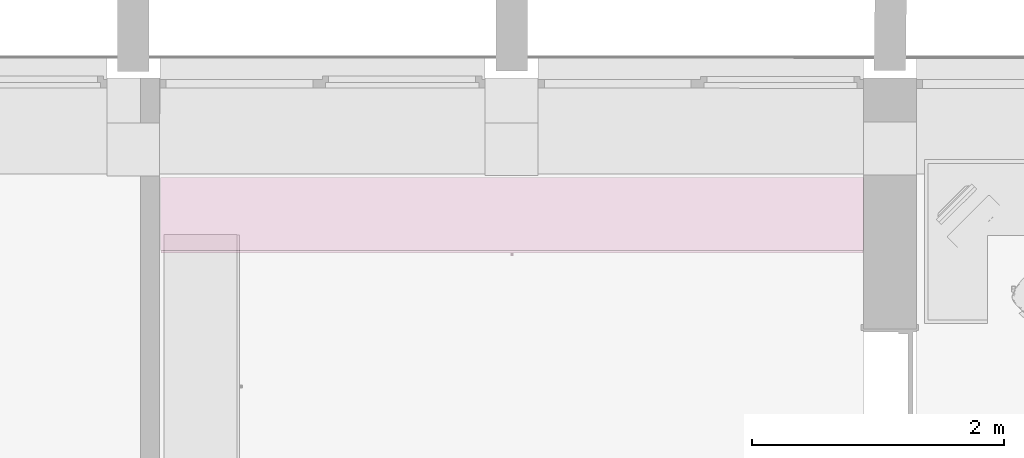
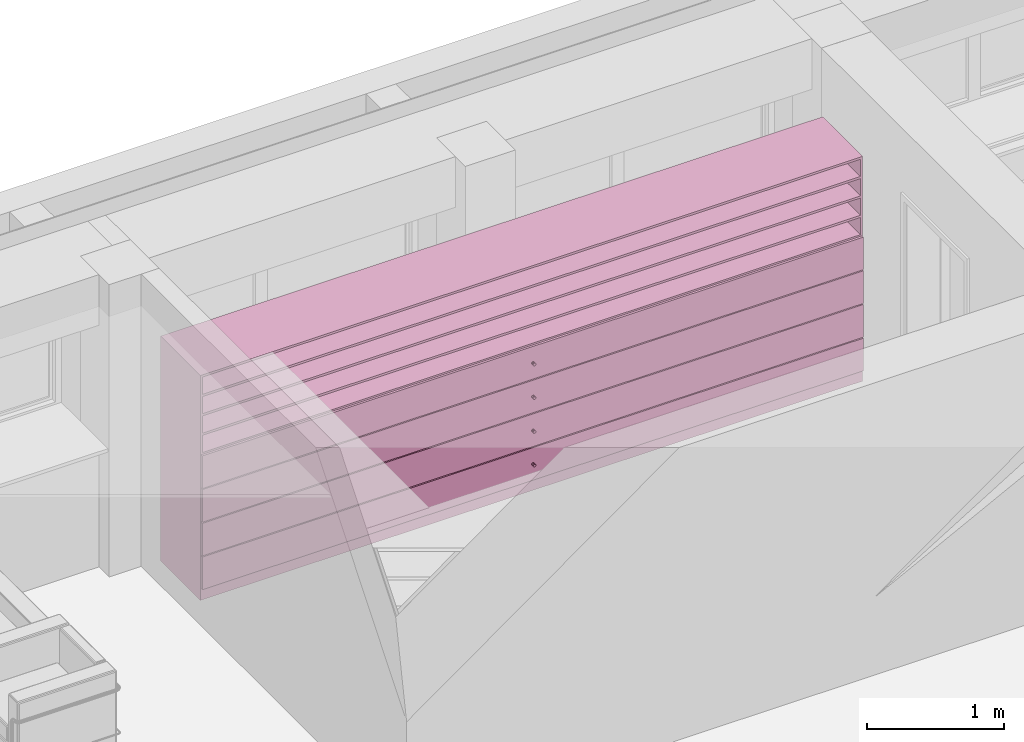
# One storey, part 102 of 127: 1 furnishing.
"""IFC2X3 building model written with IfcOpenShell, lengths in millimetres."""

from ifc_helpers import new_model, entity, si_unit, converted_unit, derived_unit, money_unit, direction, frame, origin_with_axes, place, context, subcontext, project, spatial, faceted_brep, type_object, element, save


model = new_model("IFC2X3")

# Units and contexts
model_context = context("Model", 3, precision=1e-05, world=origin_with_axes(), true_north=direction((0.0, 1.0)))
body_context = subcontext(model_context, "Body", "Model", "MODEL_VIEW")
ifc_project = project(units=[si_unit("LENGTHUNIT", "METRE", prefix="MILLI"), si_unit("AREAUNIT", "SQUARE_METRE"), si_unit("VOLUMEUNIT", "CUBIC_METRE"), converted_unit("PLANEANGLEUNIT", "DEGREE", entity("IfcPlaneAngleMeasure", 0.0174532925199), si_unit("PLANEANGLEUNIT", "RADIAN"), dimensions=[0, 0, 0, 0, 0, 0, 0]), si_unit("SOLIDANGLEUNIT", "STERADIAN"), money_unit("EUR"), converted_unit("TIMEUNIT", "Year", entity("IfcTimeMeasure", 31556926.0), si_unit("TIMEUNIT", "SECOND"), dimensions=[0, 0, 1, 0, 0, 0, 0]), si_unit("MASSUNIT", "GRAM", prefix="KILO"), si_unit("THERMODYNAMICTEMPERATUREUNIT", "DEGREE_CELSIUS"), si_unit("LUMINOUSINTENSITYUNIT", "LUMEN"), si_unit("ENERGYUNIT", "JOULE", prefix="MEGA"), derived_unit("THERMALCONDUCTANCEUNIT", [(si_unit("POWERUNIT", "WATT"), 1), (si_unit("LENGTHUNIT", "METRE"), -1), (si_unit("THERMODYNAMICTEMPERATUREUNIT", "KELVIN"), -1)]), derived_unit("SPECIFICHEATCAPACITYUNIT", [(si_unit("ENERGYUNIT", "JOULE"), 1), (si_unit("MASSUNIT", "GRAM", prefix="KILO"), -1), (si_unit("THERMODYNAMICTEMPERATUREUNIT", "KELVIN"), -1)]), derived_unit("MASSDENSITYUNIT", [(si_unit("MASSUNIT", "GRAM", prefix="KILO"), 1), (si_unit("VOLUMEUNIT", "CUBIC_METRE"), -1)])], contexts=[model_context])

# Site, building, storey
site_placement = place(None, origin_with_axes())
site = spatial("IfcSite", under=ifc_project, at=site_placement, Name="Site", CompositionType="ELEMENT")
building_placement = place(site_placement, origin_with_axes())
building = spatial("IfcBuilding", under=site, at=building_placement, Name="Building", CompositionType="ELEMENT")
storey_placement = place(building_placement, origin_with_axes())
storey = spatial("IfcBuildingStorey", under=building, at=storey_placement, Name="1 KORRUS", CompositionType="ELEMENT", Elevation=0.0)

# Furnishing
furnishing_element_type = type_object("IfcFurnishingElementType", Name="Model Element 50")
furnishing_placement = place(storey_placement, frame((30734.8414233, 45862.2827279, 0.0), z_axis=(0.0, 0.0, 1.0), x_axis=(1.0, 0.0, 0.0)))
element("IfcFurnishingElement", 1, at=furnishing_placement, inside=storey, type_object=furnishing_element_type, Name="FU - 013", context=body_context, shape_type="Brep", body=[
    faceted_brep([(-5573.89062701, 19.0, 0.0), (-5573.89062701, 599.999999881, 0.0), (0.0, 599.999999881, 0.0), (0.0, 19.0, 0.0), (-5573.89062701, 19.0, 100.0), (-5573.89062701, 599.999999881, 100.0), (0.0, 599.999999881, 100.0), (0.0, 19.0, 100.0)], [[[0, 1, 2, 3]], [[0, 4, 5, 1]], [[1, 5, 6, 2]], [[2, 6, 7, 3]], [[3, 7, 4, 0]], [[7, 6, 5, 4]]]),
    faceted_brep([(-19.0, 599.999999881, 119.0), (-19.0, 599.999999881, 1981.0), (-19.0, 580.999999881, 1981.0), (-19.0, 580.999999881, 119.0), (-5554.89062701, 599.999999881, 119.0), (-5554.89062701, 599.999999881, 1981.0), (-5554.89062701, 580.999999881, 1981.0), (-5554.89062701, 580.999999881, 119.0)], [[[0, 1, 2, 3]], [[4, 5, 1, 0]], [[1, 5, 6, 2]], [[3, 2, 6, 7]], [[0, 3, 7, 4]], [[7, 6, 5, 4]]]),
    faceted_brep([(-5573.89062701, 19.0, 100.0), (-5573.89062701, 599.999999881, 100.0), (-5554.89062701, 599.999999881, 100.0), (-5554.89062701, 19.0, 100.0), (-5573.89062701, 19.0, 2000.0), (-5573.89062701, 599.999999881, 2000.0), (-5554.89062701, 599.999999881, 2000.0), (-5554.89062701, 19.0, 2000.0)], [[[0, 1, 2, 3]], [[0, 4, 5, 1]], [[1, 5, 6, 2]], [[2, 6, 7, 3]], [[3, 7, 4, 0]], [[7, 6, 5, 4]]]),
    faceted_brep([(-19.0, 19.0, 100.0), (-19.0, 599.999999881, 100.0), (0.0, 599.999999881, 100.0), (0.0, 19.0, 100.0), (-19.0, 19.0, 2000.0), (-19.0, 599.999999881, 2000.0), (0.0, 599.999999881, 2000.0), (0.0, 19.0, 2000.0)], [[[0, 1, 2, 3]], [[0, 4, 5, 1]], [[1, 5, 6, 2]], [[2, 6, 7, 3]], [[3, 7, 4, 0]], [[7, 6, 5, 4]]]),
    faceted_brep([(-5554.89062701, 19.0, 100.0), (-5554.89062701, 599.999999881, 100.0), (-19.0, 599.999999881, 100.0), (-19.0, 19.0, 100.0), (-5554.89062701, 19.0, 119.0), (-5554.89062701, 599.999999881, 119.0), (-19.0, 599.999999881, 119.0), (-19.0, 19.0, 119.0)], [[[0, 1, 2, 3]], [[0, 4, 5, 1]], [[1, 5, 6, 2]], [[2, 6, 7, 3]], [[3, 7, 4, 0]], [[7, 6, 5, 4]]]),
    faceted_brep([(-5554.89062701, 19.0, 1981.0), (-5554.89062701, 599.999999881, 1981.0), (-19.0, 599.999999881, 1981.0), (-19.0, 19.0, 1981.0), (-5554.89062701, 19.0, 2000.0), (-5554.89062701, 599.999999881, 2000.0), (-19.0, 599.999999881, 2000.0), (-19.0, 19.0, 2000.0)], [[[0, 1, 2, 3]], [[0, 4, 5, 1]], [[1, 5, 6, 2]], [[2, 6, 7, 3]], [[3, 7, 4, 0]], [[7, 6, 5, 4]]]),
    faceted_brep([(-5.0, 19.0, 105.0), (-5.0, 0.0, 105.0), (-5568.89062701, 0.0, 105.0), (-5568.89062701, 19.0, 105.0), (-5.0, 19.0, 395.0), (-5.0, 0.0, 395.0), (-5568.89062701, 0.0, 395.0), (-5568.89062701, 19.0, 395.0)], [[[0, 1, 2, 3]], [[4, 5, 1, 0]], [[1, 5, 6, 2]], [[3, 2, 6, 7]], [[0, 3, 7, 4]], [[7, 6, 5, 4]]]),
    faceted_brep([(-2797.33761835, 0.0, 244.0), (-2798.94531351, 0.0, 250.0), (-2797.33761835, 0.0, 256.0), (-2792.94531351, 0.0, 260.392304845), (-2786.94531351, 0.0, 262.0), (-2780.94531351, 0.0, 260.392304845), (-2776.55300866, 0.0, 256.0), (-2774.94531351, 0.0, 250.0), (-2776.55300866, 0.0, 244.0), (-2780.94531351, 0.0, 239.607695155), (-2786.94531351, 0.0, 238.0), (-2792.94531351, 0.0, 239.607695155), (-2797.33761835, -25.0, 244.0), (-2798.94531351, -25.0, 250.0), (-2797.33761835, -25.0, 256.0), (-2792.94531351, -25.0, 260.392304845), (-2786.94531351, -25.0, 262.0), (-2780.94531351, -25.0, 260.392304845), (-2776.55300866, -25.0, 256.0), (-2774.94531351, -25.0, 250.0), (-2776.55300866, -25.0, 244.0), (-2780.94531351, -25.0, 239.607695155), (-2786.94531351, -25.0, 238.0), (-2792.94531351, -25.0, 239.607695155)], [[[0, 1, 2, 3, 4, 5, 6, 7, 8, 9, 10, 11]], [[0, 12, 13, 1]], [[1, 13, 14, 2]], [[2, 14, 15, 3]], [[3, 15, 16, 4]], [[4, 16, 17, 5]], [[5, 17, 18, 6]], [[6, 18, 19, 7]], [[7, 19, 20, 8]], [[8, 20, 21, 9]], [[9, 21, 22, 10]], [[10, 22, 23, 11]], [[11, 23, 12, 0]], [[12, 23, 22, 21, 20, 19, 18, 17, 16, 15, 14, 13]]]),
    faceted_brep([(-5.0, 19.0, 405.0), (-5.0, 0.0, 405.0), (-5568.89062701, 0.0, 405.0), (-5568.89062701, 19.0, 405.0), (-5.0, 19.0, 695.0), (-5.0, 0.0, 695.0), (-5568.89062701, 0.0, 695.0), (-5568.89062701, 19.0, 695.0)], [[[0, 1, 2, 3]], [[4, 5, 1, 0]], [[1, 5, 6, 2]], [[3, 2, 6, 7]], [[0, 3, 7, 4]], [[7, 6, 5, 4]]]),
    faceted_brep([(-2797.33761835, 0.0, 544.0), (-2798.94531351, 0.0, 550.0), (-2797.33761835, 0.0, 556.0), (-2792.94531351, 0.0, 560.392304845), (-2786.94531351, 0.0, 562.0), (-2780.94531351, 0.0, 560.392304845), (-2776.55300866, 0.0, 556.0), (-2774.94531351, 0.0, 550.0), (-2776.55300866, 0.0, 544.0), (-2780.94531351, 0.0, 539.607695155), (-2786.94531351, 0.0, 538.0), (-2792.94531351, 0.0, 539.607695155), (-2797.33761835, -25.0, 544.0), (-2798.94531351, -25.0, 550.0), (-2797.33761835, -25.0, 556.0), (-2792.94531351, -25.0, 560.392304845), (-2786.94531351, -25.0, 562.0), (-2780.94531351, -25.0, 560.392304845), (-2776.55300866, -25.0, 556.0), (-2774.94531351, -25.0, 550.0), (-2776.55300866, -25.0, 544.0), (-2780.94531351, -25.0, 539.607695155), (-2786.94531351, -25.0, 538.0), (-2792.94531351, -25.0, 539.607695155)], [[[0, 1, 2, 3, 4, 5, 6, 7, 8, 9, 10, 11]], [[0, 12, 13, 1]], [[1, 13, 14, 2]], [[2, 14, 15, 3]], [[3, 15, 16, 4]], [[4, 16, 17, 5]], [[5, 17, 18, 6]], [[6, 18, 19, 7]], [[7, 19, 20, 8]], [[8, 20, 21, 9]], [[9, 21, 22, 10]], [[10, 22, 23, 11]], [[11, 23, 12, 0]], [[12, 23, 22, 21, 20, 19, 18, 17, 16, 15, 14, 13]]]),
    faceted_brep([(-5.0, 19.0, 705.0), (-5.0, 0.0, 705.0), (-5568.89062701, 0.0, 705.0), (-5568.89062701, 19.0, 705.0), (-5.0, 19.0, 995.0), (-5.0, 0.0, 995.0), (-5568.89062701, 0.0, 995.0), (-5568.89062701, 19.0, 995.0)], [[[0, 1, 2, 3]], [[4, 5, 1, 0]], [[1, 5, 6, 2]], [[3, 2, 6, 7]], [[0, 3, 7, 4]], [[7, 6, 5, 4]]]),
    faceted_brep([(-2797.33761835, 0.0, 844.0), (-2798.94531351, 0.0, 850.0), (-2797.33761835, 0.0, 856.0), (-2792.94531351, 0.0, 860.392304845), (-2786.94531351, 0.0, 862.0), (-2780.94531351, 0.0, 860.392304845), (-2776.55300866, 0.0, 856.0), (-2774.94531351, 0.0, 850.0), (-2776.55300866, 0.0, 844.0), (-2780.94531351, 0.0, 839.607695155), (-2786.94531351, 0.0, 838.0), (-2792.94531351, 0.0, 839.607695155), (-2797.33761835, -25.0, 844.0), (-2798.94531351, -25.0, 850.0), (-2797.33761835, -25.0, 856.0), (-2792.94531351, -25.0, 860.392304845), (-2786.94531351, -25.0, 862.0), (-2780.94531351, -25.0, 860.392304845), (-2776.55300866, -25.0, 856.0), (-2774.94531351, -25.0, 850.0), (-2776.55300866, -25.0, 844.0), (-2780.94531351, -25.0, 839.607695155), (-2786.94531351, -25.0, 838.0), (-2792.94531351, -25.0, 839.607695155)], [[[0, 1, 2, 3, 4, 5, 6, 7, 8, 9, 10, 11]], [[0, 12, 13, 1]], [[1, 13, 14, 2]], [[2, 14, 15, 3]], [[3, 15, 16, 4]], [[4, 16, 17, 5]], [[5, 17, 18, 6]], [[6, 18, 19, 7]], [[7, 19, 20, 8]], [[8, 20, 21, 9]], [[9, 21, 22, 10]], [[10, 22, 23, 11]], [[11, 23, 12, 0]], [[12, 23, 22, 21, 20, 19, 18, 17, 16, 15, 14, 13]]]),
    faceted_brep([(-5.0, 19.0, 1005.0), (-5.0, 0.0, 1005.0), (-5568.89062701, 0.0, 1005.0), (-5568.89062701, 19.0, 1005.0), (-5.0, 19.0, 1295.0), (-5.0, 0.0, 1295.0), (-5568.89062701, 0.0, 1295.0), (-5568.89062701, 19.0, 1295.0)], [[[0, 1, 2, 3]], [[4, 5, 1, 0]], [[1, 5, 6, 2]], [[3, 2, 6, 7]], [[0, 3, 7, 4]], [[7, 6, 5, 4]]]),
    faceted_brep([(-2797.33761835, 0.0, 1144.0), (-2798.94531351, 0.0, 1150.0), (-2797.33761835, 0.0, 1156.0), (-2792.94531351, 0.0, 1160.39230485), (-2786.94531351, 0.0, 1162.0), (-2780.94531351, 0.0, 1160.39230485), (-2776.55300866, 0.0, 1156.0), (-2774.94531351, 0.0, 1150.0), (-2776.55300866, 0.0, 1144.0), (-2780.94531351, 0.0, 1139.60769515), (-2786.94531351, 0.0, 1138.0), (-2792.94531351, 0.0, 1139.60769515), (-2797.33761835, -25.0, 1144.0), (-2798.94531351, -25.0, 1150.0), (-2797.33761835, -25.0, 1156.0), (-2792.94531351, -25.0, 1160.39230485), (-2786.94531351, -25.0, 1162.0), (-2780.94531351, -25.0, 1160.39230485), (-2776.55300866, -25.0, 1156.0), (-2774.94531351, -25.0, 1150.0), (-2776.55300866, -25.0, 1144.0), (-2780.94531351, -25.0, 1139.60769515), (-2786.94531351, -25.0, 1138.0), (-2792.94531351, -25.0, 1139.60769515)], [[[0, 1, 2, 3, 4, 5, 6, 7, 8, 9, 10, 11]], [[0, 12, 13, 1]], [[1, 13, 14, 2]], [[2, 14, 15, 3]], [[3, 15, 16, 4]], [[4, 16, 17, 5]], [[5, 17, 18, 6]], [[6, 18, 19, 7]], [[7, 19, 20, 8]], [[8, 20, 21, 9]], [[9, 21, 22, 10]], [[10, 22, 23, 11]], [[11, 23, 12, 0]], [[12, 23, 22, 21, 20, 19, 18, 17, 16, 15, 14, 13]]]),
    faceted_brep([(-19.0, 19.0, 390.5), (-19.0, 19.0, 409.5), (-5554.89062701, 19.0, 409.5), (-5554.89062701, 19.0, 390.5), (-19.0, 580.999999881, 390.5), (-19.0, 580.999999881, 409.5), (-5554.89062701, 580.999999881, 409.5), (-5554.89062701, 580.999999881, 390.5)], [[[0, 1, 2, 3]], [[4, 5, 1, 0]], [[1, 5, 6, 2]], [[3, 2, 6, 7]], [[0, 3, 7, 4]], [[7, 6, 5, 4]]]),
    faceted_brep([(-19.0, 19.0, 690.5), (-19.0, 19.0, 709.5), (-5554.89062701, 19.0, 709.5), (-5554.89062701, 19.0, 690.5), (-19.0, 580.999999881, 690.5), (-19.0, 580.999999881, 709.5), (-5554.89062701, 580.999999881, 709.5), (-5554.89062701, 580.999999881, 690.5)], [[[0, 1, 2, 3]], [[4, 5, 1, 0]], [[1, 5, 6, 2]], [[3, 2, 6, 7]], [[0, 3, 7, 4]], [[7, 6, 5, 4]]]),
    faceted_brep([(-19.0, 19.0, 990.5), (-19.0, 19.0, 1009.5), (-5554.89062701, 19.0, 1009.5), (-5554.89062701, 19.0, 990.5), (-19.0, 580.999999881, 990.5), (-19.0, 580.999999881, 1009.5), (-5554.89062701, 580.999999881, 1009.5), (-5554.89062701, 580.999999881, 990.5)], [[[0, 1, 2, 3]], [[4, 5, 1, 0]], [[1, 5, 6, 2]], [[3, 2, 6, 7]], [[0, 3, 7, 4]], [[7, 6, 5, 4]]]),
    faceted_brep([(-19.0, 19.0, 1290.5), (-19.0, 19.0, 1309.5), (-5554.89062701, 19.0, 1309.5), (-5554.89062701, 19.0, 1290.5), (-19.0, 580.999999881, 1290.5), (-19.0, 580.999999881, 1309.5), (-5554.89062701, 580.999999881, 1309.5), (-5554.89062701, 580.999999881, 1290.5)], [[[0, 1, 2, 3]], [[4, 5, 1, 0]], [[1, 5, 6, 2]], [[3, 2, 6, 7]], [[0, 3, 7, 4]], [[7, 6, 5, 4]]]),
    faceted_brep([(-5554.89062701, 19.0, 1463.125), (-5554.89062701, 580.999999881, 1463.125), (-19.0, 580.999999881, 1463.125), (-19.0, 19.0, 1463.125), (-5554.89062701, 19.0, 1482.125), (-5554.89062701, 580.999999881, 1482.125), (-19.0, 580.999999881, 1482.125), (-19.0, 19.0, 1482.125)], [[[0, 1, 2, 3]], [[0, 4, 5, 1]], [[1, 5, 6, 2]], [[2, 6, 7, 3]], [[3, 7, 4, 0]], [[7, 6, 5, 4]]]),
    faceted_brep([(-5554.89062701, 19.0, 1635.75), (-5554.89062701, 580.999999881, 1635.75), (-19.0, 580.999999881, 1635.75), (-19.0, 19.0, 1635.75), (-5554.89062701, 19.0, 1654.75), (-5554.89062701, 580.999999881, 1654.75), (-19.0, 580.999999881, 1654.75), (-19.0, 19.0, 1654.75)], [[[0, 1, 2, 3]], [[0, 4, 5, 1]], [[1, 5, 6, 2]], [[2, 6, 7, 3]], [[3, 7, 4, 0]], [[7, 6, 5, 4]]]),
    faceted_brep([(-5554.89062701, 19.0, 1808.375), (-5554.89062701, 580.999999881, 1808.375), (-19.0, 580.999999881, 1808.375), (-19.0, 19.0, 1808.375), (-5554.89062701, 19.0, 1827.375), (-5554.89062701, 580.999999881, 1827.375), (-19.0, 580.999999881, 1827.375), (-19.0, 19.0, 1827.375)], [[[0, 1, 2, 3]], [[0, 4, 5, 1]], [[1, 5, 6, 2]], [[2, 6, 7, 3]], [[3, 7, 4, 0]], [[7, 6, 5, 4]]]),
])

save(model, "model.ifc")
